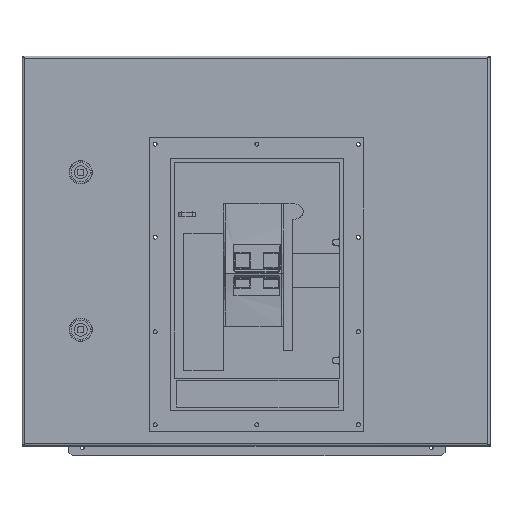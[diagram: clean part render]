
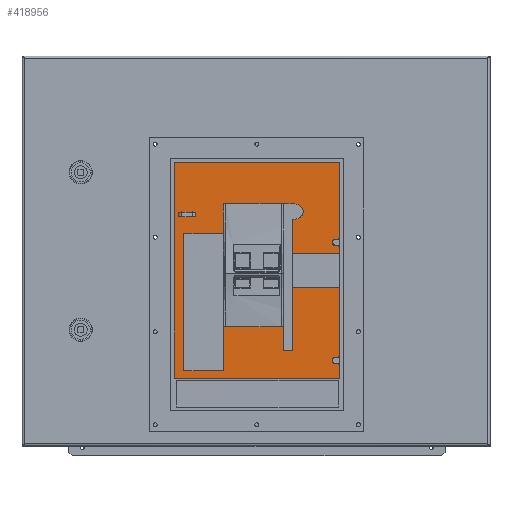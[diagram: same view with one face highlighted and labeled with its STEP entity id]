
A CAD part, top view. The second image highlights one B-rep face of the part: STEP entity #418956.
In plain terms, the highlighted planar face has unit normal (0, 0, 1).
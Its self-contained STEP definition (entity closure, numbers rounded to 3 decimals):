
#417766=CARTESIAN_POINT(' ',(104.9,313.,35.4));
#417767=VERTEX_POINT(' ',#417766);
#417781=CARTESIAN_POINT(' ',(104.9,313.,35.4));
#417786=DIRECTION(' ',(0.,-1.,0.));
#417791=VECTOR(' ',#417786,1.);
#417796=LINE('',#417781,#417791);
#417801=CARTESIAN_POINT(' ',(104.9,216.75,35.4));
#417802=VERTEX_POINT(' ',#417801);
#417806=EDGE_CURVE(' ',#417767,#417802,#417796,.T.);
#417816=CARTESIAN_POINT(' ',(104.9,216.75,35.4));
#417821=DIRECTION(' ',(0.,-1.,0.));
#417826=VECTOR(' ',#417821,1.);
#417831=LINE('',#417816,#417826);
#417836=CARTESIAN_POINT(' ',(104.9,55.25,35.4));
#417837=VERTEX_POINT(' ',#417836);
#417841=EDGE_CURVE(' ',#417802,#417837,#417831,.T.);
#417851=CARTESIAN_POINT(' ',(104.9,55.25,35.4));
#417856=DIRECTION(' ',(0.,-1.,0.));
#417861=VECTOR(' ',#417856,1.);
#417866=LINE('',#417851,#417861);
#417871=CARTESIAN_POINT(' ',(104.9,38.,35.4));
#417872=VERTEX_POINT(' ',#417871);
#417876=EDGE_CURVE(' ',#417837,#417872,#417866,.T.);
#417981=CARTESIAN_POINT(' ',(-105.1,38.,35.4));
#417982=VERTEX_POINT(' ',#417981);
#418006=CARTESIAN_POINT(' ',(104.9,38.,35.4));
#418011=DIRECTION(' ',(-1.,0.,0.));
#418016=VECTOR(' ',#418011,1.);
#418021=LINE('',#418006,#418016);
#418026=EDGE_CURVE(' ',#417872,#417982,#418021,.T.);
#418076=CARTESIAN_POINT(' ',(-105.1,66.75,35.4));
#418081=DIRECTION(' ',(0.,1.,0.));
#418086=VECTOR(' ',#418081,1.);
#418091=LINE('',#418076,#418086);
#418096=CARTESIAN_POINT(' ',(-105.1,66.75,35.4));
#418097=VERTEX_POINT(' ',#418096);
#418101=CARTESIAN_POINT(' ',(-105.1,205.25,35.4));
#418102=VERTEX_POINT(' ',#418101);
#418106=EDGE_CURVE(' ',#418097,#418102,#418091,.T.);
#418116=CARTESIAN_POINT(' ',(-105.1,205.25,35.4));
#418121=DIRECTION(' ',(0.,1.,0.));
#418126=VECTOR(' ',#418121,1.);
#418131=LINE('',#418116,#418126);
#418136=CARTESIAN_POINT(' ',(-105.1,216.75,35.4));
#418137=VERTEX_POINT(' ',#418136);
#418141=EDGE_CURVE(' ',#418102,#418137,#418131,.T.);
#418151=CARTESIAN_POINT(' ',(-105.1,216.75,35.4));
#418156=DIRECTION(' ',(0.,1.,0.));
#418161=VECTOR(' ',#418156,1.);
#418166=LINE('',#418151,#418161);
#418171=CARTESIAN_POINT(' ',(-105.1,313.,35.4));
#418172=VERTEX_POINT(' ',#418171);
#418176=EDGE_CURVE(' ',#418137,#418172,#418166,.T.);
#418226=CARTESIAN_POINT(' ',(-105.1,38.,35.4));
#418231=DIRECTION(' ',(0.,1.,0.));
#418236=VECTOR(' ',#418231,1.);
#418241=LINE('',#418226,#418236);
#418246=CARTESIAN_POINT(' ',(-105.1,55.25,35.4));
#418247=VERTEX_POINT(' ',#418246);
#418251=EDGE_CURVE(' ',#417982,#418247,#418241,.T.);
#418261=CARTESIAN_POINT(' ',(-105.1,55.25,35.4));
#418266=DIRECTION(' ',(0.,1.,0.));
#418271=VECTOR(' ',#418266,1.);
#418276=LINE('',#418261,#418271);
#418281=EDGE_CURVE(' ',#418247,#418097,#418276,.T.);
#418356=CARTESIAN_POINT(' ',(-105.1,313.,35.4));
#418361=DIRECTION(' ',(1.,0.,0.));
#418366=VECTOR(' ',#418361,1.);
#418371=LINE('',#418356,#418366);
#418376=EDGE_CURVE(' ',#418172,#417767,#418371,.T.);
#418871=DIRECTION(' ',(0.,0.,1.));
#418876=CARTESIAN_POINT(' ',(-167.727,53.09,35.4));
#418881=DIRECTION(' ',(0.972,-0.234,0.));
#418886=AXIS2_PLACEMENT_3D(' ',#418876,#418871,#418881);
#418891=PLANE('',#418886);
#418896=ORIENTED_EDGE(' ',*,*,#417876,.F.);
#418901=ORIENTED_EDGE(' ',*,*,#417841,.F.);
#418906=ORIENTED_EDGE(' ',*,*,#417806,.F.);
#418911=ORIENTED_EDGE(' ',*,*,#418376,.F.);
#418916=ORIENTED_EDGE(' ',*,*,#418176,.F.);
#418921=ORIENTED_EDGE(' ',*,*,#418141,.F.);
#418926=ORIENTED_EDGE(' ',*,*,#418106,.F.);
#418931=ORIENTED_EDGE(' ',*,*,#418281,.F.);
#418936=ORIENTED_EDGE(' ',*,*,#418251,.F.);
#418941=ORIENTED_EDGE(' ',*,*,#418026,.F.);
#418946=EDGE_LOOP(' ',(#418896,#418901,#418906,#418911,#418916,#418921,#418926,#418931,#418936,#418941));
#418951=FACE_OUTER_BOUND(' ',#418946,.T.);
#418956=ADVANCED_FACE('',(#418951),#418891,.T.);
